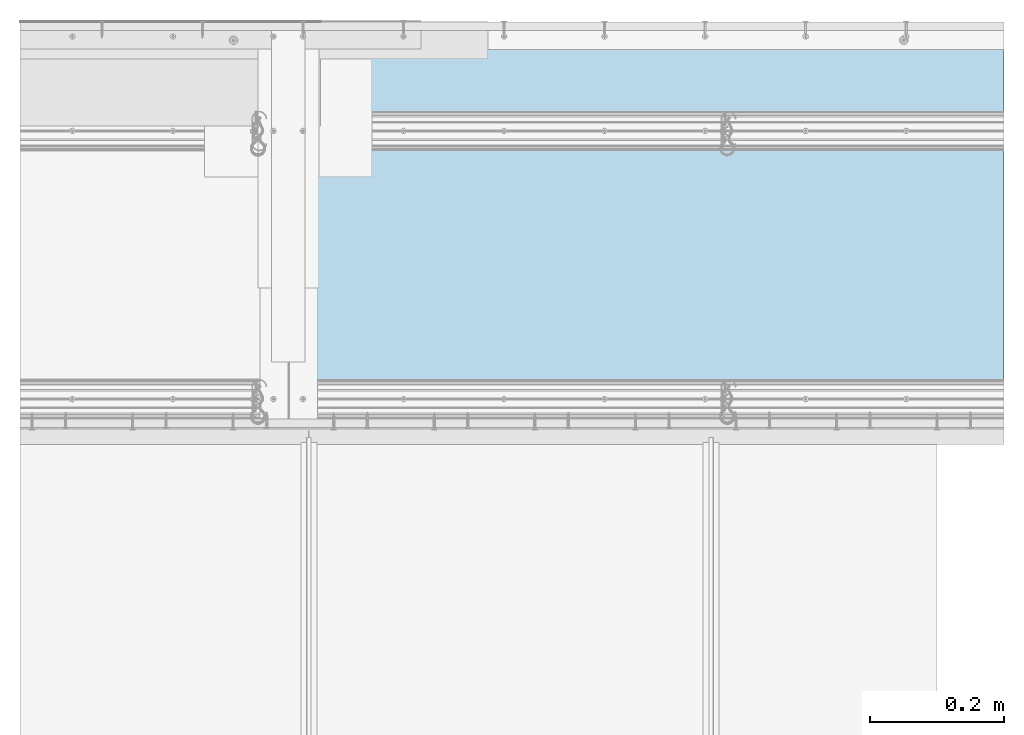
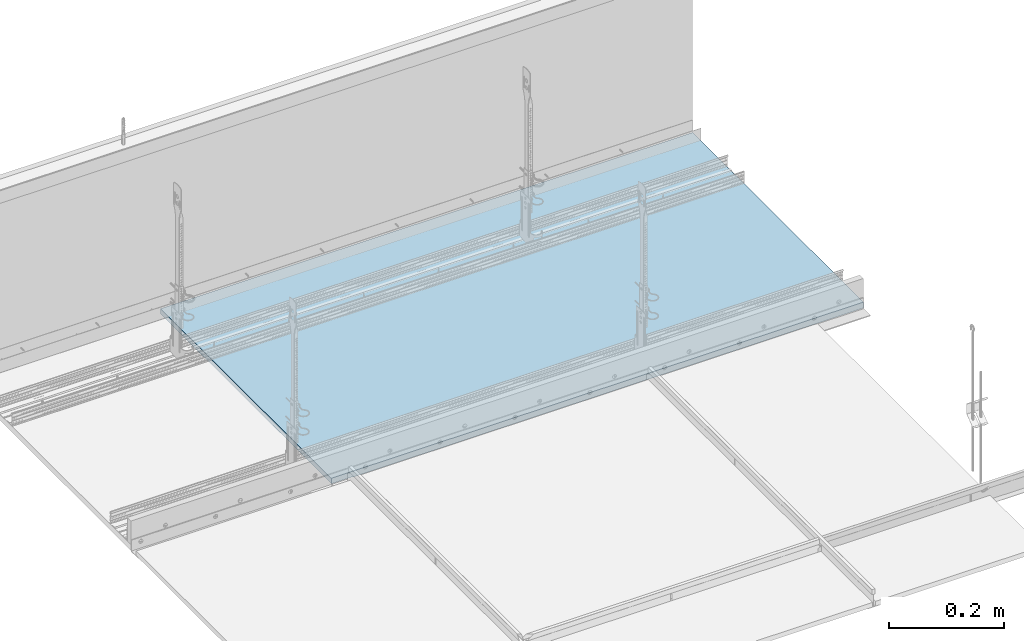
# One storey, part 1 of 79: 1 slab.
"""IFC2X3 building model written with IfcOpenShell, lengths in millimetres."""

from ifc_helpers import new_model, entity, si_unit, converted_unit, direction, frame, origin, origin_with_axes, place, context, project, spatial, faceted_brep, element, save


model = new_model("IFC2X3")

# Units and contexts
model_context = context("Model", 3, precision=1e-05, world=origin(), true_north=direction((0.0, 1.0, 0.0)))
ifc_project = project(units=[si_unit("LENGTHUNIT", "METRE", prefix="MILLI"), si_unit("AREAUNIT", "SQUARE_METRE"), si_unit("VOLUMEUNIT", "CUBIC_METRE"), converted_unit("PLANEANGLEUNIT", "DEGREE", entity("IfcPlaneAngleMeasure", 0.01745), si_unit("PLANEANGLEUNIT", "RADIAN"), dimensions=[0, 0, 0, 0, 0, 0, 0]), si_unit("SOLIDANGLEUNIT", "STERADIAN"), si_unit("MASSUNIT", "GRAM"), si_unit("TIMEUNIT", "SECOND"), si_unit("THERMODYNAMICTEMPERATUREUNIT", "DEGREE_CELSIUS"), si_unit("LUMINOUSINTENSITYUNIT", "LUMEN")], contexts=[model_context])

# Site, building, storey
site_placement = place(None, origin_with_axes())
site = spatial("IfcSite", under=ifc_project, at=site_placement, Name="Default Site", CompositionType="ELEMENT")
building_placement = place(site_placement, origin_with_axes())
building = spatial("IfcBuilding", under=site, at=building_placement, Name="Default Building", CompositionType="ELEMENT")
storey_placement = place(building_placement, origin_with_axes())
storey = spatial("IfcBuildingStorey", under=building, at=storey_placement, Name="Default Building Storey", CompositionType="ELEMENT", Elevation=0.0)

# Slab
slab_placement = place(storey_placement, frame((2526.439347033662, 829.7641033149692, 993.7852175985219), z_axis=(-3.36311631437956e-44, -1.0, 3.330669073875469e-16), x_axis=(1.0, -2.12807555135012e-28, -6.389333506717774e-13)))
element("IfcSlab", 1, at=slab_placement, inside=storey, Name="Płyta gipsowo-kartonowa RIGIPS PRO (4PRO™)", context=model_context, shape_type="Brep", body=[
    faceted_brep([(1066.601271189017, 7.47539274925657e-10, -799.6336619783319), (1066.601271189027, -12.49999999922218, -799.6336619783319), (44.99999999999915, -12.50000000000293, -799.6336619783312), (41.00000000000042, -11.50000000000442, -799.6336619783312), (0.9999999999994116, -11.5000000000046, -799.6336619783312), (0.741180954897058, -11.46592582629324, -799.6336619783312), (0.4999999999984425, -11.36602540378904, -799.6336619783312), (0.292893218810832, -11.20710678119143, -799.6336619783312), (0.1339745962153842, -11.00000000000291, -799.6336619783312), (0.03407417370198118, -10.758819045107, -799.6336619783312), (-5.414335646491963e-12, -10.50000000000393, -799.6336619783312), (7.219114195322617e-13, -5.414335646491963e-13, -799.6336619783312), (1066.601271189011, -12.49999999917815, -1392.152531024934), (44.99999999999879, -12.4999999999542, -1392.152531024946), (1066.601271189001, 7.94102561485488e-10, -1392.152531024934), (41.00000000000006, -11.49999999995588, -1392.152531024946), (0.9999999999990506, -11.49999999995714, -1392.152531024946), (0.7411809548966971, -11.46592582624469, -1392.152531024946), (0.4999999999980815, -11.36602540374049, -1392.152531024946), (0.292893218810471, -11.20710678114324, -1392.152531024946), (0.1339745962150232, -10.99999999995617, -1392.152531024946), (0.03407417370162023, -10.75881904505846, -1392.152531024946), (-5.775291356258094e-12, -10.49999999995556, -1392.152531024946), (3.609557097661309e-13, 4.782663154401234e-11, -1392.152531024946)], [[[0, 1, 2, 3, 4, 5, 6, 7, 8, 9, 10, 11]], [[1, 12, 13, 2]], [[0, 14, 12, 1]], [[2, 13, 15, 3]], [[3, 15, 16, 4]], [[4, 16, 17, 5]], [[5, 17, 18, 6]], [[6, 18, 19, 7]], [[7, 19, 20, 8]], [[8, 20, 21, 9]], [[9, 21, 22, 10]], [[10, 22, 23, 11]], [[0, 11, 23, 14]], [[13, 12, 14, 23, 22, 21, 20, 19, 18, 17, 16, 15]]]),
])

save(model, "model.ifc")
